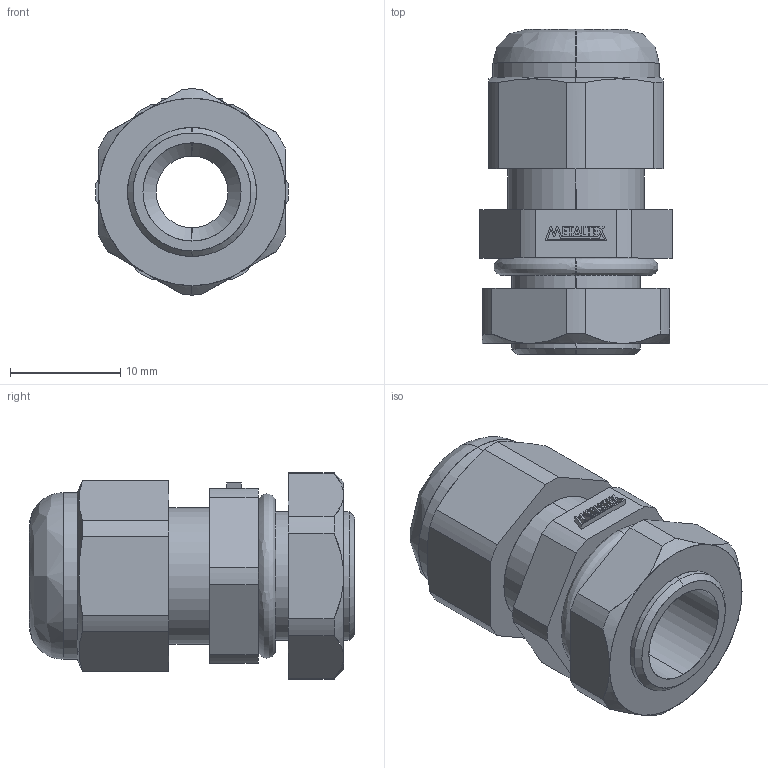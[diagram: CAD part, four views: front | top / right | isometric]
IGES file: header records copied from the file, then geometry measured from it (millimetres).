
Start section: SolidWorks IGES file using analytic representation for surfaces
Global section: file name: D:\X - Arquivos\PROEX\Empresas\P11 - METALTEX\01 - Produtos\IGES\Terceira remessa\Etapa 2\CH-M12.IGS; native system: SolidWorks 2012; preprocessor: SolidWorks 2012; author: Usuario; date: 180207.124826; units: millimetre
Bounding box: 17.49 x 29.5 x 18.7 mm (x, y, z)
Surface area: 3030.5 mm2 (no closed solid volume)
Topology: 0 solids, 0 shells, 174 faces, 1289 edges, 1289 vertices
Faces by surface type: bspline 125, revolution 49
